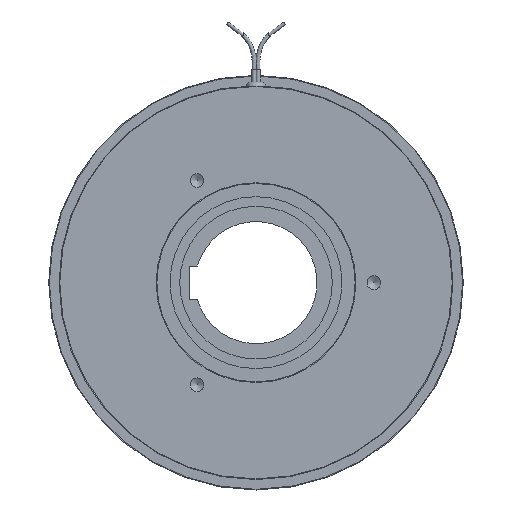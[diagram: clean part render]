
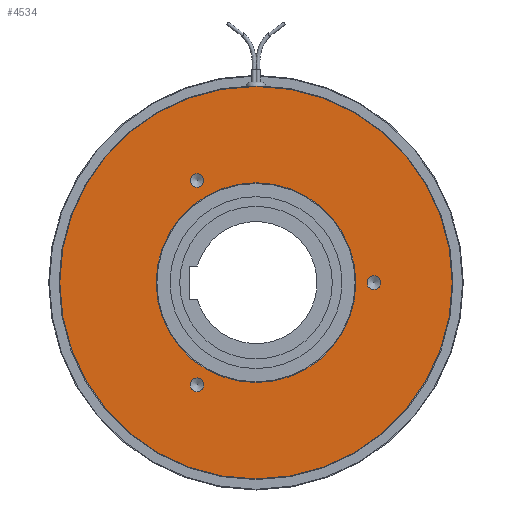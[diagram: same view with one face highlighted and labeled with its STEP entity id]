
A CAD part, left-side view. The second image highlights one B-rep face of the part: STEP entity #4534.
In plain terms, the highlighted planar face has unit normal (-1, 0, 0).
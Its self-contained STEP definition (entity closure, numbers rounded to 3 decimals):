
#89=FACE_BOUND('',#572,.T.);
#90=FACE_BOUND('',#573,.T.);
#91=FACE_BOUND('',#574,.T.);
#92=FACE_BOUND('',#575,.T.);
#155=PLANE('',#4987);
#292=FACE_OUTER_BOUND('',#571,.T.);
#571=EDGE_LOOP('',(#3309,#3310,#3311));
#572=EDGE_LOOP('',(#3312,#3313));
#573=EDGE_LOOP('',(#3314,#3315));
#574=EDGE_LOOP('',(#3316,#3317));
#575=EDGE_LOOP('',(#3318,#3319));
#1336=CIRCLE('',#4980,70.75);
#1337=CIRCLE('',#4981,70.75);
#1338=CIRCLE('',#4983,36.);
#1341=CIRCLE('',#4986,36.);
#1342=CIRCLE('',#4988,70.75);
#1343=CIRCLE('',#4989,2.459);
#1344=CIRCLE('',#4990,2.459);
#1345=CIRCLE('',#4991,2.459);
#1346=CIRCLE('',#4992,2.459);
#1347=CIRCLE('',#4993,2.459);
#1348=CIRCLE('',#4994,2.459);
#1795=VERTEX_POINT('',#7687);
#1796=VERTEX_POINT('',#7689);
#1797=VERTEX_POINT('',#7691);
#1801=VERTEX_POINT('',#7718);
#1802=VERTEX_POINT('',#7719);
#1805=VERTEX_POINT('',#7729);
#1806=VERTEX_POINT('',#7730);
#1807=VERTEX_POINT('',#7733);
#1808=VERTEX_POINT('',#7734);
#1809=VERTEX_POINT('',#7737);
#1810=VERTEX_POINT('',#7738);
#2351=EDGE_CURVE('',#1796,#1795,#1336,.T.);
#2352=EDGE_CURVE('',#1797,#1796,#1337,.T.);
#2357=EDGE_CURVE('',#1801,#1802,#1338,.T.);
#2361=EDGE_CURVE('',#1802,#1801,#1341,.T.);
#2362=EDGE_CURVE('',#1795,#1797,#1342,.T.);
#2363=EDGE_CURVE('',#1805,#1806,#1343,.T.);
#2364=EDGE_CURVE('',#1806,#1805,#1344,.T.);
#2365=EDGE_CURVE('',#1807,#1808,#1345,.T.);
#2366=EDGE_CURVE('',#1808,#1807,#1346,.T.);
#2367=EDGE_CURVE('',#1809,#1810,#1347,.T.);
#2368=EDGE_CURVE('',#1810,#1809,#1348,.T.);
#3309=ORIENTED_EDGE('',*,*,#2351,.T.);
#3310=ORIENTED_EDGE('',*,*,#2362,.T.);
#3311=ORIENTED_EDGE('',*,*,#2352,.T.);
#3312=ORIENTED_EDGE('',*,*,#2363,.T.);
#3313=ORIENTED_EDGE('',*,*,#2364,.T.);
#3314=ORIENTED_EDGE('',*,*,#2365,.T.);
#3315=ORIENTED_EDGE('',*,*,#2366,.T.);
#3316=ORIENTED_EDGE('',*,*,#2367,.T.);
#3317=ORIENTED_EDGE('',*,*,#2368,.T.);
#3318=ORIENTED_EDGE('',*,*,#2357,.F.);
#3319=ORIENTED_EDGE('',*,*,#2361,.F.);
#4534=ADVANCED_FACE('',(#292,#89,#90,#91,#92),#155,.T.);
#4980=AXIS2_PLACEMENT_3D('',#7690,#6058,#6059);
#4981=AXIS2_PLACEMENT_3D('',#7692,#6060,#6061);
#4983=AXIS2_PLACEMENT_3D('',#7720,#6067,#6068);
#4986=AXIS2_PLACEMENT_3D('',#7726,#6074,#6075);
#4987=AXIS2_PLACEMENT_3D('',#7727,#6076,#6077);
#4988=AXIS2_PLACEMENT_3D('',#7728,#6078,#6079);
#4989=AXIS2_PLACEMENT_3D('',#7731,#6080,#6081);
#4990=AXIS2_PLACEMENT_3D('',#7732,#6082,#6083);
#4991=AXIS2_PLACEMENT_3D('',#7735,#6084,#6085);
#4992=AXIS2_PLACEMENT_3D('',#7736,#6086,#6087);
#4993=AXIS2_PLACEMENT_3D('',#7739,#6088,#6089);
#4994=AXIS2_PLACEMENT_3D('',#7740,#6090,#6091);
#6058=DIRECTION('center_axis',(-1.,0.,0.));
#6059=DIRECTION('ref_axis',(0.,1.,0.));
#6060=DIRECTION('center_axis',(-1.,0.,0.));
#6061=DIRECTION('ref_axis',(0.,1.,0.));
#6067=DIRECTION('center_axis',(-1.,0.,0.));
#6068=DIRECTION('ref_axis',(0.,1.,0.));
#6074=DIRECTION('center_axis',(-1.,0.,0.));
#6075=DIRECTION('ref_axis',(0.,1.,0.));
#6076=DIRECTION('center_axis',(-1.,0.,0.));
#6077=DIRECTION('ref_axis',(0.,0.,1.));
#6078=DIRECTION('center_axis',(-1.,0.,0.));
#6079=DIRECTION('ref_axis',(0.,1.,0.));
#6080=DIRECTION('center_axis',(1.,0.,0.));
#6081=DIRECTION('ref_axis',(0.,0.,1.));
#6082=DIRECTION('center_axis',(1.,0.,0.));
#6083=DIRECTION('ref_axis',(0.,0.,1.));
#6084=DIRECTION('center_axis',(1.,0.,0.));
#6085=DIRECTION('ref_axis',(0.,0.,1.));
#6086=DIRECTION('center_axis',(1.,0.,0.));
#6087=DIRECTION('ref_axis',(0.,0.,1.));
#6088=DIRECTION('center_axis',(1.,0.,0.));
#6089=DIRECTION('ref_axis',(0.,0.,1.));
#6090=DIRECTION('center_axis',(1.,0.,0.));
#6091=DIRECTION('ref_axis',(0.,0.,1.));
#7687=CARTESIAN_POINT('',(-19.5,-70.75,0.));
#7689=CARTESIAN_POINT('',(-19.5,70.75,0.));
#7690=CARTESIAN_POINT('Origin',(-19.5,0.,0.));
#7691=CARTESIAN_POINT('',(-19.5,0.,70.75));
#7692=CARTESIAN_POINT('Origin',(-19.5,0.,0.));
#7718=CARTESIAN_POINT('',(-19.5,36.,0.));
#7719=CARTESIAN_POINT('',(-19.5,-36.,0.));
#7720=CARTESIAN_POINT('Origin',(-19.5,0.,0.));
#7726=CARTESIAN_POINT('Origin',(-19.5,0.,0.));
#7727=CARTESIAN_POINT('Origin',(-19.5,53.375,0.));
#7728=CARTESIAN_POINT('Origin',(-19.5,0.,0.));
#7729=CARTESIAN_POINT('',(-19.5,21.25,39.265));
#7730=CARTESIAN_POINT('',(-19.5,21.25,34.348));
#7731=CARTESIAN_POINT('Origin',(-19.5,21.25,36.806));
#7732=CARTESIAN_POINT('Origin',(-19.5,21.25,36.806));
#7733=CARTESIAN_POINT('',(-19.5,-42.5,2.459));
#7734=CARTESIAN_POINT('',(-19.5,-42.5,-2.458));
#7735=CARTESIAN_POINT('Origin',(-19.5,-42.5,0.));
#7736=CARTESIAN_POINT('Origin',(-19.5,-42.5,0.));
#7737=CARTESIAN_POINT('',(-19.5,21.25,-34.348));
#7738=CARTESIAN_POINT('',(-19.5,21.25,-39.265));
#7739=CARTESIAN_POINT('Origin',(-19.5,21.25,-36.806));
#7740=CARTESIAN_POINT('Origin',(-19.5,21.25,-36.806));
